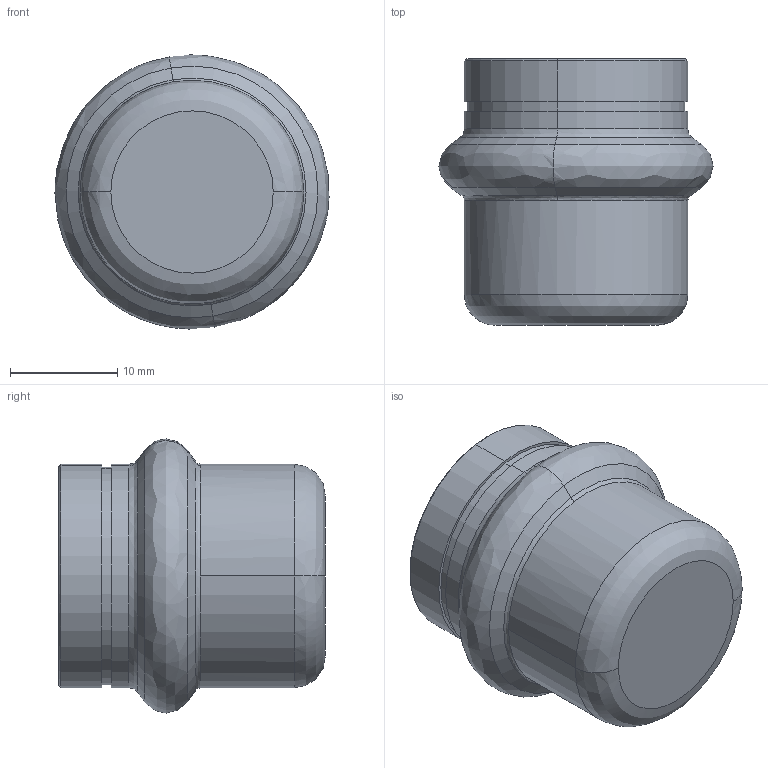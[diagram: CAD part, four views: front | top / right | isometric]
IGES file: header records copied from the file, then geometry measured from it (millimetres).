
Start section: Elysium IGES Interface
Global section: file name: C:\3d modellen sudo\S-Pr VP\SP6301V\6301VW18.igs; native system: CoCreate Modeling 17.00A  17-Jun-2010; preprocessor: CoCreate IGES_3D V2.2; author: Unknown; organization: Unknown; date: 20130129.103354; units: millimetre
Bounding box: 25.58 x 24.85 x 25.59 mm (x, y, z)
Volume: 3107 mm3; surface area: 3895.3 mm2
Topology: 1 solids, 1 shells, 40 faces, 80 edges, 48 vertices
Faces by surface type: bspline 40
